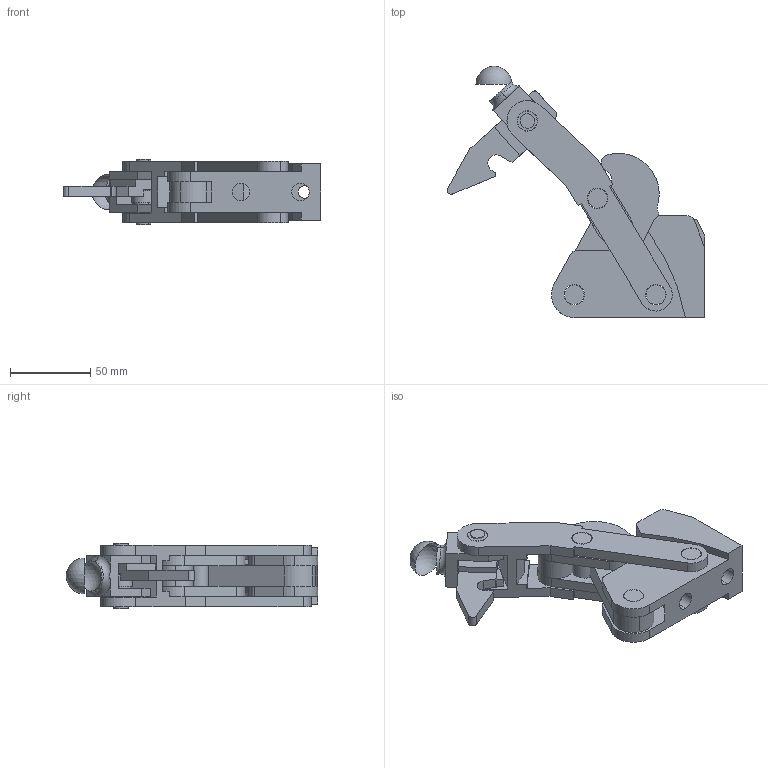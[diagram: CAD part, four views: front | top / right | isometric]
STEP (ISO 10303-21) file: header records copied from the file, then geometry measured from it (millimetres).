
FILE_DESCRIPTION( ( '' ), '1' );
FILE_NAME( 'C:\Documents and Settings\Richard Grenzke\My Documents\Wolverine Company Data\WOLVERINE CD 5_17_05\SOLIDS STEP\heavy_duty_compact\lyt1037.stp', ' ', ( '' ), ( '' ), 'ACIS Interop R16', 'Kubotek KeyCreator V5.5.1 (0454)', ' ' );
FILE_SCHEMA( ( 'CONFIG_CONTROL_DESIGN' ) );
Length unit declared in the file: inch
Products named in the file (14): 1; 2; 3; 4; 5; 6; 7; 8; 9; 10; 11; 12; 13; 14
Bounding box: 160.46 x 156.44 x 40.89 mm (x, y, z)
Volume: 227611.7 mm3; surface area: 86169.6 mm2
Topology: 13 solids, 13 shells, 270 faces, 755 edges, 509 vertices
Faces by surface type: plane 143, cylinder 115, torus 6, cone 4, sphere 2
Entity records: 9606 total; most frequent: CARTESIAN_POINT 1648, DIRECTION 1627, ORIENTED_EDGE 1502, EDGE_CURVE 751, AXIS2_PLACEMENT_3D 604, VERTEX_POINT 509, LINE 419, VECTOR 419
